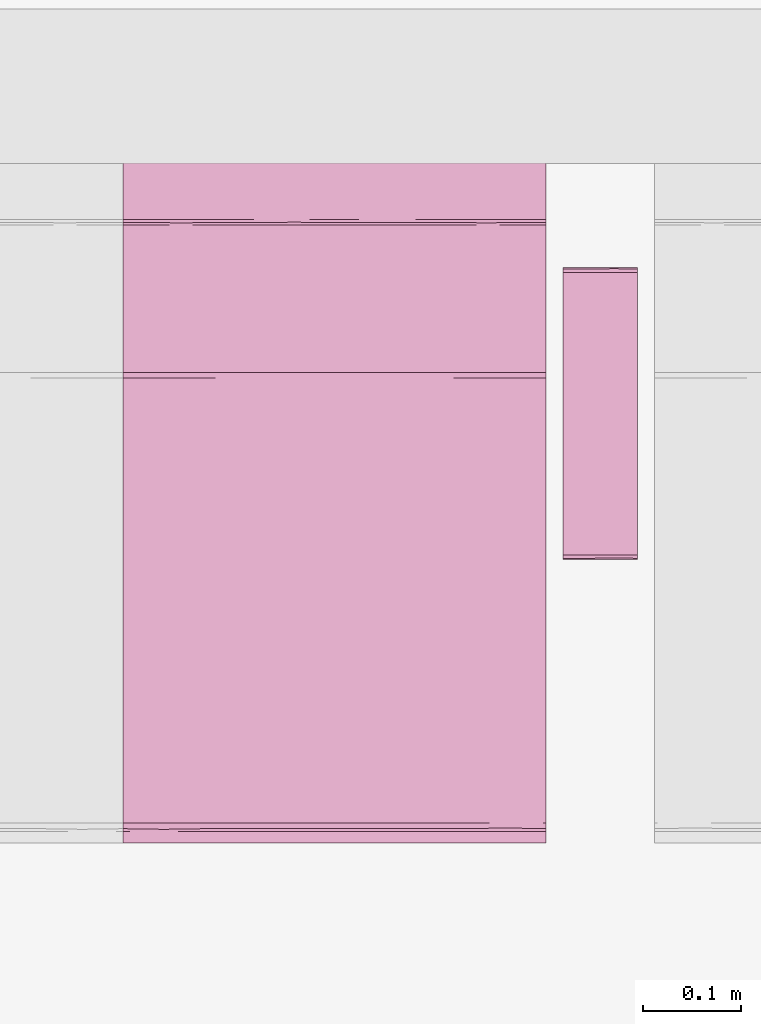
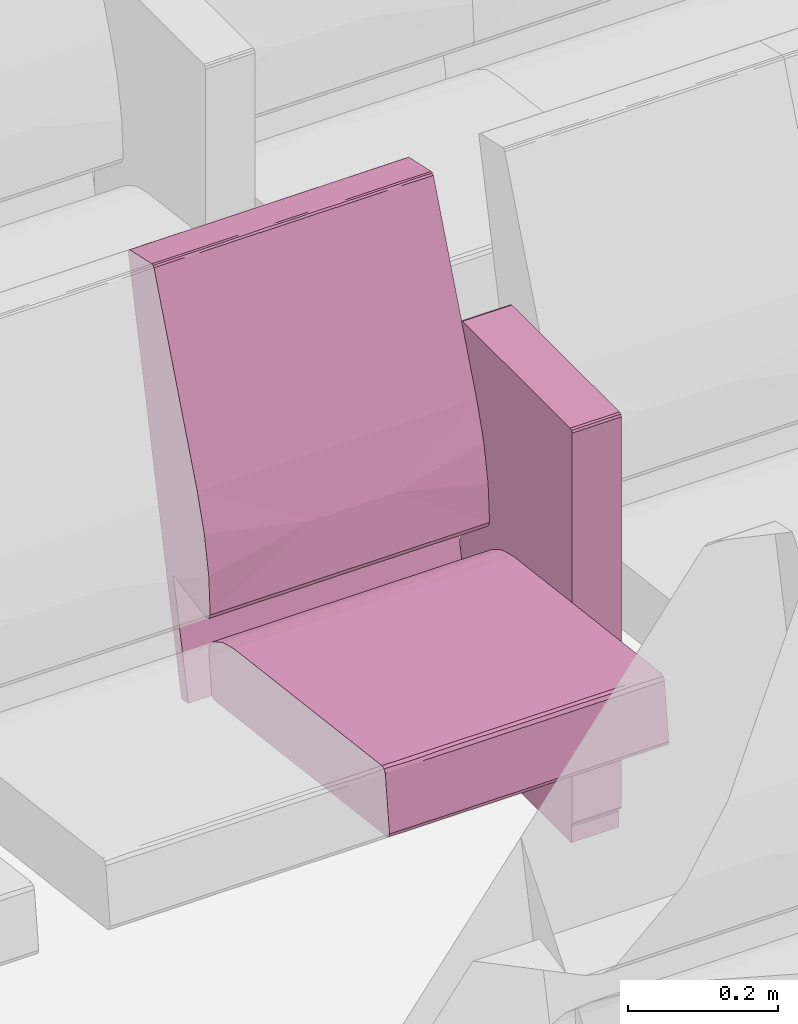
# One storey, part 108 of 155: 1 furnishing.
"""IFC2X3 building model written with IfcOpenShell, lengths in metres."""

from ifc_helpers import new_model, entity, si_unit, converted_unit, derived_unit, direction, frame, origin, place, context, subcontext, project, spatial, faceted_brep, source, transform, mapped, material, material_list, type_object, type_shapes, element, save


model = new_model("IFC2X3")

# Units and contexts
model_context = context("Model", 3, precision=1e-05, world=origin(), true_north=direction((6.12303176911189e-17, 1.0)))
body_context = subcontext(model_context, "Body", "Model", "MODEL_VIEW")
ifc_project = project(units=[si_unit("LENGTHUNIT", "METRE"), si_unit("AREAUNIT", "SQUARE_METRE"), si_unit("VOLUMEUNIT", "CUBIC_METRE"), converted_unit("PLANEANGLEUNIT", "DEGREE", entity("IfcRatioMeasure", 0.0174532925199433), si_unit("PLANEANGLEUNIT", "RADIAN"), dimensions=[0, 0, 0, 0, 0, 0, 0]), si_unit("MASSUNIT", "GRAM", prefix="KILO"), derived_unit("MASSDENSITYUNIT", [(si_unit("MASSUNIT", "GRAM", prefix="KILO"), 1), (si_unit("LENGTHUNIT", "METRE"), -3)]), si_unit("TIMEUNIT", "SECOND"), si_unit("FREQUENCYUNIT", "HERTZ"), si_unit("THERMODYNAMICTEMPERATUREUNIT", "DEGREE_CELSIUS"), derived_unit("THERMALTRANSMITTANCEUNIT", [(si_unit("MASSUNIT", "GRAM", prefix="KILO"), 1), (si_unit("THERMODYNAMICTEMPERATUREUNIT", "KELVIN"), -1), (si_unit("TIMEUNIT", "SECOND"), -3)]), derived_unit("VOLUMETRICFLOWRATEUNIT", [(si_unit("LENGTHUNIT", "METRE"), 3), (si_unit("TIMEUNIT", "SECOND"), -1)]), si_unit("ELECTRICCURRENTUNIT", "AMPERE"), si_unit("ELECTRICVOLTAGEUNIT", "VOLT"), si_unit("POWERUNIT", "WATT"), si_unit("FORCEUNIT", "NEWTON", prefix="KILO"), si_unit("ILLUMINANCEUNIT", "LUX"), si_unit("LUMINOUSFLUXUNIT", "LUMEN"), si_unit("LUMINOUSINTENSITYUNIT", "CANDELA"), derived_unit("USERDEFINED", [(si_unit("MASSUNIT", "GRAM", prefix="KILO"), -1), (si_unit("LENGTHUNIT", "METRE"), -2), (si_unit("TIMEUNIT", "SECOND"), 3), (si_unit("LUMINOUSFLUXUNIT", "LUMEN"), 1)]), derived_unit("LINEARVELOCITYUNIT", [(si_unit("LENGTHUNIT", "METRE"), 1), (si_unit("TIMEUNIT", "SECOND"), -1)]), si_unit("PRESSUREUNIT", "PASCAL"), derived_unit("USERDEFINED", [(si_unit("LENGTHUNIT", "METRE"), -2), (si_unit("MASSUNIT", "GRAM", prefix="KILO"), 1), (si_unit("TIMEUNIT", "SECOND"), -2)])], contexts=[model_context])

# Site, building, storey, space
site_placement = place(None, frame((26.9889013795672, -17.5624287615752, 0.0)))
site = spatial("IfcSite", under=ifc_project, at=site_placement, Name="Default", CompositionType="ELEMENT")
building_placement = place(site_placement, origin())
building = spatial("IfcBuilding", under=site, at=building_placement, Name="C. C. L. Monsenhor Antônio Sampaio", CompositionType="ELEMENT")
storey_placement = place(building_placement, frame((0.0, 0.0, 1.19999999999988)))
storey = spatial("IfcBuildingStorey", under=building, at=storey_placement, Name="Nível 1.2", CompositionType="ELEMENT", Elevation=1.19999999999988)
space_placement = place(storey_placement, origin())
space = spatial("IfcSpace", under=storey, at=space_placement, Name="94", CompositionType="ELEMENT", InteriorOrExteriorSpace="INTERNAL")

# Furnishing
ifc_material_1 = material(Name="V9 - V9 - Ecopelle_672_658")
ifc_material_2 = material(Name="V9 - V9 - RAL_9006_Grigio")
ifc_material_list_1 = material_list([ifc_material_1, ifc_material_2])
ifc_material_list_2 = material_list([ifc_material_1, ifc_material_2])
furniture_type = type_object("IfcFurnitureType", Name="Cadeira auditório", material=ifc_material_list_2)
shared_shape = source(origin(), body_context, "Body", "Brep", [
    faceted_brep([(0.405536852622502, -0.1075, 0.339809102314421), (0.410560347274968, -0.131924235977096, 0.34246450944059), (0.405536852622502, -0.156348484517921, 0.339809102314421), (0.41079981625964, -0.0179166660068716, 0.342749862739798), (0.410597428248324, -0.084060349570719, 0.342506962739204), (0.405536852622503, -0.0537499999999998, 0.339809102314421), (0.410248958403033, -0.173608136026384, 0.342130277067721), (0.405536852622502, -0.215, 0.339809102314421), (0.412515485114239, -0.143333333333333, 0.348529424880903), (0.412515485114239, -0.185674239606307, 0.348529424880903), (0.405536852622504, 0.1075, 0.33980910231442), (0.405536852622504, 0.156348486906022, 0.33980910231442), (0.410560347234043, 0.131924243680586, 0.342464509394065), (0.405536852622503, 0.0, 0.33980910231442), (0.411170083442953, 0.0341365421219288, 0.343251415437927), (0.41251548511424, 0.0, 0.348529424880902), (0.412515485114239, -0.0358333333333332, 0.348529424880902), (0.412515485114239, -0.0716666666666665, 0.348529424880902), (0.41251548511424, 0.143333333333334, 0.348529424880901), (0.41059742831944, 0.0840603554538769, 0.342506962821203), (0.405536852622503, 0.0537500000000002, 0.33980910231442), (0.410248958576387, 0.173608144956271, 0.342130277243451), (0.410799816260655, 0.215, 0.342749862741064), (0.412515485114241, 0.185674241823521, 0.348529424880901), (0.412515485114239, -0.215, 0.348529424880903), (0.410799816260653, -0.215, 0.342749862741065), (0.412515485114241, 0.215, 0.348529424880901), (0.41251548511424, 0.0716666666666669, 0.348529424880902), (0.405536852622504, 0.215, 0.33980910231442), (-0.0557900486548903, -0.215, 0.28268145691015), (-0.0557900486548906, -0.1881249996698, 0.282681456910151), (-0.0557900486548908, -0.161250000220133, 0.282681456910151), (-0.055790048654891, -0.134374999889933, 0.282681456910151), (-0.0557900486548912, -0.107499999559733, 0.282681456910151), (-0.0557900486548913, -0.0806250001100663, 0.282681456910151), (-0.0557900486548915, -0.0537499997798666, 0.282681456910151), (-0.0557900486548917, -0.0268749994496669, 0.282681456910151), (-0.0557900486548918, 0.0, 0.28268145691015), (-0.0557900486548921, 0.0268750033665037, 0.282681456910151), (-0.0557900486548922, 0.0537499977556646, 0.282681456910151), (-0.0557900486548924, 0.0806249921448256, 0.282681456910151), (-0.0557900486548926, 0.107499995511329, 0.282681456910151), (-0.0557900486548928, 0.138065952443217, 0.282681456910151), (-0.055790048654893, 0.168631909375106, 0.282681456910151), (-0.0557900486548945, 0.215, 0.28268145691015), (-0.0594787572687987, -0.0179017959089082, 0.283700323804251), (-0.0613666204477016, 0.0, 0.287029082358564), (-0.0594787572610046, 0.0152829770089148, 0.283700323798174), (-0.0594787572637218, -0.215, 0.283700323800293), (-0.0613666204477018, -0.215, 0.287029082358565), (-0.0613666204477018, -0.191815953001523, 0.287029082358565), (-0.0613666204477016, -0.030565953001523, 0.287029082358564), (-0.0593340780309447, -0.0671874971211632, 0.283591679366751), (-0.0593337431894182, 0.184174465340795, 0.283591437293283), (-0.0594787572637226, 0.215, 0.283700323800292), (-0.0593023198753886, 0.0940625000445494, 0.283568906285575), (-0.0613666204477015, 0.0611319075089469, 0.287029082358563), (-0.0613666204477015, 0.0916978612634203, 0.287029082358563), (-0.0613666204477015, 0.122263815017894, 0.287029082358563), (-0.0597338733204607, -0.147039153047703, 0.283913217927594), (-0.0613666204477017, -0.122263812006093, 0.287029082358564), (-0.059382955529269, -0.118123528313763, 0.28362747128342), (-0.0592501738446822, -0.180223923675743, 0.283532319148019), (-0.0613666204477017, -0.168631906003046, 0.287029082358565), (-0.0588783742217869, -0.0926899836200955, 0.283298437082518), (-0.0613666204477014, 0.168631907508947, 0.287029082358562), (-0.0613666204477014, 0.215, 0.287029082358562), (-0.0592576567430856, 0.123736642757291, 0.283537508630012), (-0.0594787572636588, 0.153348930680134, 0.283700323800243), (-0.0613666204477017, -0.0916978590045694, 0.287029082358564), (-0.0613666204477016, 0.0305659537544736, 0.287029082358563), (-0.059645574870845, 0.045848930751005, 0.283836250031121), (-0.0613666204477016, -0.0611319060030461, 0.287029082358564), (-0.0693403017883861, 0.143333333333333, 0.351419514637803), (-0.069340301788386, 0.215, 0.351419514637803), (-0.0693403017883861, -0.215, 0.351419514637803), (-0.0693403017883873, -0.143333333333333, 0.351419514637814), (-0.069340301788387, -0.0716666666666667, 0.351419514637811), (-0.0693403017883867, 0.0, 0.351419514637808), (-0.0693403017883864, 0.0716666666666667, 0.351419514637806), (-0.0653387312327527, -0.0126787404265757, 0.368680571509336), (-0.0645543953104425, -0.112272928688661, 0.369803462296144), (-0.0597085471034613, 0.0, 0.37476954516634), (-0.0655136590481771, 0.104400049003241, 0.368411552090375), (-0.0681665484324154, 0.0888707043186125, 0.36292533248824), (-0.0694879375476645, -0.0590582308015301, 0.356377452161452), (-0.0695056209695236, 0.125492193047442, 0.356093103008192), (-0.0597085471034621, 0.110316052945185, 0.374769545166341), (-0.0676206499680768, -0.215, 0.364371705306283), (-0.0672851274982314, -0.108066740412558, 0.365148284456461), (-0.0690003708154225, -0.132942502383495, 0.359900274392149), (-0.068624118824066, -0.215, 0.356813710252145), (-0.0686241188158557, 0.214999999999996, 0.356813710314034), (-0.0694502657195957, 0.0358333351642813, 0.356863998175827), (-0.0686999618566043, -0.035833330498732, 0.36116674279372), (-0.067620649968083, 0.214999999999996, 0.364371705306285), (-0.063664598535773, 0.214999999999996, 0.369570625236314), (-0.0597085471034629, 0.214999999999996, 0.374769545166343), (-0.0597085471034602, -0.110316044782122, 0.374769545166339), (-0.0636645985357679, -0.215, 0.36957062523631), (-0.0597085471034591, -0.215, 0.374769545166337), (-0.0018793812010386, -0.215, 0.398686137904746), (-0.0324117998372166, -0.0436847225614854, 0.39063968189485), (-0.0324117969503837, -0.215, 0.390639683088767), (-0.041847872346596, 0.0856576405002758, 0.386239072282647), (-0.00187938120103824, 0.102488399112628, 0.398686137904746), (-0.00187938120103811, 0.215, 0.398686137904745), (-0.0324117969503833, 0.215, 0.390639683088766), (-0.0219042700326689, 0.0570631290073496, 0.394412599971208), (-0.00187938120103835, 0.0, 0.398686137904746), (0.392202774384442, -0.215, 0.447486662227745), (0.392202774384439, -0.156349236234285, 0.447486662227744), (0.392202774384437, -0.107499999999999, 0.447486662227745), (0.392202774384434, -0.0537499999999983, 0.447486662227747), (0.392202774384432, 0.0, 0.447486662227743), (0.392202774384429, 0.0537500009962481, 0.44748666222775), (0.392202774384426, 0.107500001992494, 0.447486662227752), (0.392202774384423, 0.156349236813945, 0.447486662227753), (0.392202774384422, 0.215, 0.447486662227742), (0.397860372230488, 0.0827732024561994, 0.446039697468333), (0.401125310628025, 0.0976984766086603, 0.440530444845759), (0.398104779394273, 0.131924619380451, 0.445856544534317), (0.397373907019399, 0.173462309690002, 0.446363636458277), (0.401125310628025, 0.156349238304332, 0.440530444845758), (0.401125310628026, 0.215000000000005, 0.440530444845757), (0.398104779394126, 0.215000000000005, 0.445856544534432), (0.397860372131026, -0.0827731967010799, 0.446039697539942), (0.398104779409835, -0.131924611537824, 0.445856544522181), (0.398104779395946, -0.0268749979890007, 0.445856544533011), (0.398104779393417, 0.0237489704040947, 0.445856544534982), (0.401125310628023, -0.0488492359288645, 0.440530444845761), (0.401125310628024, 0.0488492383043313, 0.44053044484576), (0.398774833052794, -0.173462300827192, 0.445271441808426), (0.401125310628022, -0.0976984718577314, 0.440530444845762), (0.39810477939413, -0.215, 0.445856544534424), (0.401125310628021, -0.215, 0.440530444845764), (0.401125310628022, -0.156349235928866, 0.440530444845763), (0.401125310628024, 0.0, 0.44053044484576)], [[[0, 1, 2]], [[3, 4, 5]], [[2, 6, 7]], [[8, 9, 6]], [[10, 11, 12]], [[13, 3, 5]], [[3, 14, 15]], [[1, 4, 8]], [[6, 1, 8]], [[4, 3, 16]], [[16, 17, 8, 4]], [[12, 18, 19]], [[4, 1, 0]], [[20, 14, 13]], [[21, 22, 23]], [[15, 16, 3]], [[9, 24, 25]], [[26, 23, 22]], [[7, 6, 25]], [[12, 11, 21]], [[19, 14, 20]], [[4, 0, 5]], [[14, 27, 15]], [[13, 14, 3]], [[19, 18, 27]], [[19, 10, 12]], [[18, 21, 23]], [[10, 19, 20]], [[19, 27, 14]], [[2, 1, 6]], [[21, 11, 28]], [[25, 6, 9]], [[18, 12, 21]], [[22, 21, 28]], [[28, 11, 10, 20, 13, 5, 0, 2, 7, 29, 30, 31, 32, 33, 34, 35, 36, 37, 38, 39, 40, 41, 42, 43, 44]], [[45, 46, 47]], [[48, 49, 50]], [[51, 45, 52]], [[53, 54, 44]], [[55, 56, 57, 58]], [[59, 60, 61]], [[62, 63, 59]], [[34, 64, 52]], [[53, 65, 66]], [[41, 67, 42]], [[37, 36, 35, 45, 47, 38]], [[43, 42, 68]], [[29, 48, 30]], [[59, 31, 62]], [[62, 48, 50]], [[61, 69, 64]], [[65, 53, 68]], [[50, 63, 62]], [[62, 30, 48]], [[55, 58, 67]], [[32, 31, 59]], [[46, 70, 47]], [[65, 68, 58]], [[55, 40, 71]], [[70, 56, 71]], [[61, 33, 32]], [[59, 63, 60]], [[39, 38, 71, 40]], [[47, 71, 38]], [[51, 46, 45]], [[70, 71, 47]], [[71, 56, 55]], [[40, 55, 41]], [[67, 68, 42]], [[43, 68, 53]], [[43, 53, 44]], [[66, 54, 53]], [[68, 67, 58]], [[55, 67, 41]], [[72, 51, 52, 69]], [[62, 31, 30]], [[59, 61, 32]], [[35, 52, 45]], [[64, 34, 33]], [[34, 52, 35]], [[61, 60, 69]], [[52, 64, 69]], [[61, 64, 33]], [[73, 74, 66, 65, 58, 57, 56, 70, 46, 51, 72, 69, 60, 63, 50, 49, 75, 76, 77, 78, 79]], [[80, 81, 82]], [[83, 84, 80]], [[85, 78, 77, 76]], [[73, 79, 86]], [[80, 82, 83]], [[87, 83, 82]], [[88, 89, 90]], [[76, 75, 91]], [[92, 74, 73]], [[91, 90, 85]], [[80, 89, 81]], [[84, 93, 94]], [[84, 86, 93]], [[93, 78, 85]], [[73, 86, 92]], [[94, 93, 85]], [[95, 92, 84]], [[78, 93, 79]], [[80, 84, 94]], [[83, 96, 95]], [[94, 85, 90]], [[87, 97, 96]], [[98, 99, 100]], [[91, 85, 76]], [[94, 90, 89]], [[90, 91, 88]], [[89, 80, 94]], [[89, 99, 81]], [[89, 88, 99]], [[82, 81, 98]], [[81, 99, 98]], [[92, 86, 84]], [[93, 86, 79]], [[84, 83, 95]], [[96, 83, 87]], [[101, 102, 103]], [[104, 97, 87, 82]], [[105, 106, 107]], [[107, 108, 105]], [[109, 102, 101]], [[82, 102, 104]], [[102, 108, 104]], [[103, 102, 100]], [[97, 104, 107]], [[104, 108, 107]], [[102, 82, 98, 100]], [[105, 108, 109]], [[108, 102, 109]], [[109, 101, 110, 111, 112, 113, 114, 115, 116, 117, 118, 106, 105]], [[119, 120, 121]], [[122, 123, 124]], [[122, 125, 118]], [[126, 113, 112]], [[117, 121, 122]], [[121, 117, 116]], [[112, 111, 127]], [[113, 128, 129, 115, 114]], [[126, 130, 128]], [[129, 131, 119]], [[111, 132, 127]], [[132, 111, 110]], [[133, 126, 127]], [[123, 122, 121]], [[132, 134, 135]], [[127, 132, 136]], [[123, 121, 120]], [[127, 136, 133]], [[129, 128, 130, 137, 131]], [[112, 127, 126]], [[126, 133, 130]], [[119, 121, 116]], [[113, 126, 128]], [[119, 115, 129]], [[119, 116, 115]], [[120, 119, 131]], [[117, 122, 118]], [[124, 125, 122]], [[136, 132, 135]], [[110, 134, 132]], [[137, 130, 133, 136, 135, 24, 9, 8, 17, 16, 15, 27, 18, 23, 26, 124, 123, 120, 131]], [[44, 54, 66, 74, 92, 95, 96, 97, 107, 106, 118, 125, 124, 26, 22, 28]], [[75, 49, 48, 29, 7, 25, 24, 135, 134, 110, 101, 103, 100, 99, 88, 91]]]),
    faceted_brep([(0.119812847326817, 0.27, 0.674900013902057), (0.12334838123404, 0.259944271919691, 0.6734355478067), (0.123144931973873, 0.283972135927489, 0.673627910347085), (0.124812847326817, 0.27, 0.669900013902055), (0.119812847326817, 0.232, 0.674900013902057), (0.12334838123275, 0.232, 0.673435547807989), (0.124812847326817, 0.308, 0.669900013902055), (0.119812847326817, 0.308, 0.674900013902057), (0.124812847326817, 0.249888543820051, 0.669900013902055), (0.124812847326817, 0.232, 0.669900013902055), (0.12334838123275, 0.308, 0.673435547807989), (0.124812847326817, 0.232, 0.0349999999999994), (0.124812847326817, 0.27, 0.035), (0.124812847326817, 0.308, 0.035), (0.12334838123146, 0.25994427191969, 0.0314644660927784), (0.123540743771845, 0.283972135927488, 0.0316679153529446), (0.119812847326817, 0.27, 0.0300000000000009), (0.12334838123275, 0.232, 0.0314644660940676), (0.119812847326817, 0.308, 0.0300000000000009), (0.119812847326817, 0.249888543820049, 0.030000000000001), (0.119812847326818, 0.232, 0.030000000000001), (0.123348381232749, 0.308, 0.0314644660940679), (-0.167179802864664, 0.27, 0.0300000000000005), (-0.167179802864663, 0.308, 0.0300000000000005), (-0.167179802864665, 0.232, 0.0300000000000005), (-0.170715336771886, 0.25994427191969, 0.0314644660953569), (-0.17051188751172, 0.283972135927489, 0.0312721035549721), (-0.172179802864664, 0.27, 0.0350000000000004), (-0.170715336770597, 0.232, 0.0314644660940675), (-0.172179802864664, 0.308, 0.0350000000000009), (-0.172179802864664, 0.24988854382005, 0.0350000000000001), (-0.172179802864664, 0.232, 0.0349999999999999), (-0.170715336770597, 0.308, 0.0314644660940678), (-0.172179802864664, 0.308, 0.669900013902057), (-0.172179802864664, 0.232, 0.669900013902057), (-0.172179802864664, 0.27, 0.669900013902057), (-0.170715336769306, 0.259944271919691, 0.673435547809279), (-0.170907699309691, 0.283972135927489, 0.673232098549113), (-0.167179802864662, 0.27, 0.674900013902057), (-0.170715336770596, 0.232, 0.67343554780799), (-0.167179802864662, 0.308, 0.674900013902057), (-0.167179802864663, 0.249888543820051, 0.674900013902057), (-0.167179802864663, 0.232, 0.674900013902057), (-0.170715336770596, 0.308, 0.67343554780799)], [[[0, 1, 2]], [[3, 2, 1]], [[0, 4, 5, 1]], [[2, 3, 6]], [[0, 2, 7]], [[8, 3, 1, 5, 9]], [[7, 2, 10]], [[6, 10, 2]], [[9, 11, 12, 13, 6, 3, 8]], [[12, 14, 15]], [[16, 15, 14]], [[12, 11, 17, 14]], [[15, 16, 18]], [[12, 15, 13]], [[19, 16, 14, 17, 20]], [[13, 15, 21]], [[18, 21, 15]], [[22, 23, 18, 16, 19, 20, 24]], [[22, 25, 26]], [[27, 26, 25]], [[22, 24, 28, 25]], [[26, 27, 29]], [[22, 26, 23]], [[30, 27, 25, 28, 31]], [[23, 26, 32]], [[29, 32, 26]], [[33, 29, 27, 30, 31, 34, 35]], [[35, 36, 37]], [[38, 37, 36]], [[35, 34, 39, 36]], [[37, 38, 40]], [[35, 37, 33]], [[41, 38, 36, 39, 42]], [[33, 37, 43]], [[40, 43, 37]], [[0, 7, 40, 38, 41, 42, 4]], [[42, 39, 34, 31, 28, 24, 20, 17, 11, 9, 5, 4]], [[23, 32, 29, 33, 43, 40, 7, 10, 6, 13, 21, 18]]]),
    faceted_brep([(-0.0655618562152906, -0.215, 0.415143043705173), (-0.0744051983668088, -0.0524423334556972, 0.506888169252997), (-0.0695672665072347, -0.215, 0.476508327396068), (-0.0655618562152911, 0.0, 0.415143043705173), (-0.0744051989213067, 0.0780075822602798, 0.506888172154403), (-0.0655618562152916, 0.1075, 0.415143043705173), (-0.0655618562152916, 0.215, 0.415143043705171), (-0.0655618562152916, -0.1075, 0.415143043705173), (-0.0695672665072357, 0.215, 0.476508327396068), (-0.0811110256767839, 0.215, 0.536911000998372), (-0.0811110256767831, -0.215, 0.536911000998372), (-0.100016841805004, 0.0, 0.595428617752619), (-0.100016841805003, -0.215, 0.595428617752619), (-0.100016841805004, 0.215, 0.595428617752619), (-0.0792851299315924, -0.0716666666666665, 0.404772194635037), (-0.0792851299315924, 0.0, 0.404772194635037), (-0.0698317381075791, -0.0358333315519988, 0.406528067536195), (-0.0698317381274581, 0.215, 0.406528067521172), (-0.0792851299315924, 0.143333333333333, 0.404772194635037), (-0.0792851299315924, 0.215, 0.404772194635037), (-0.0698317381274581, -0.215, 0.406528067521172), (-0.0792851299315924, -0.215, 0.404772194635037), (-0.0792851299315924, -0.143333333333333, 0.404772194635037), (-0.0694171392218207, -0.140338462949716, 0.406857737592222), (-0.0708115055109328, 0.0356393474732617, 0.405868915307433), (-0.0703502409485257, 0.107500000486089, 0.406159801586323), (-0.0792851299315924, 0.0716666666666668, 0.404772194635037), (-0.163837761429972, 0.215, 0.420611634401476), (-0.163837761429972, -0.215, 0.420611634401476), (-0.123612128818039, -0.215, 0.235917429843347), (-0.123612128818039, 0.215, 0.235917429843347), (-0.142059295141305, -0.215, 0.231899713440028), (-0.142059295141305, 0.215, 0.231899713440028), (-0.235388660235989, -0.215, 0.652619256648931), (-0.235388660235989, 0.215, 0.652619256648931), (-0.28428001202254, 0.0, 0.873004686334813), (-0.284280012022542, 0.0268749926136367, 0.873004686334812), (-0.284280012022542, 0.0537499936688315, 0.873004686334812), (-0.284280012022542, 0.0806249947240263, 0.873004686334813), (-0.284280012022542, 0.107499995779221, 0.873004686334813), (-0.284280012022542, 0.134374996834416, 0.873004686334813), (-0.284280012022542, 0.161249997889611, 0.873004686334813), (-0.284280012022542, 0.191295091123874, 0.873004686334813), (-0.28428001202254, 0.215, 0.873004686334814), (-0.284280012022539, -0.215, 0.873004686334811), (-0.28428001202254, -0.191295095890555, 0.873004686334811), (-0.284280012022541, -0.161249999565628, 0.873004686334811), (-0.284280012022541, -0.134374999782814, 0.873004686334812), (-0.284280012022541, -0.1075, 0.873004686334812), (-0.284280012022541, -0.0806250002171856, 0.873004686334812), (-0.284280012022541, -0.0537500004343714, 0.873004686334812), (-0.284280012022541, -0.0268749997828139, 0.873004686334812), (-0.283504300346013, -0.0569644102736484, 0.877068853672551), (-0.283746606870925, -0.0872244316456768, 0.876674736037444), (-0.283641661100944, 0.12093750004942, 0.876855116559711), (-0.283567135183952, 0.15546176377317, 0.876973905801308), (-0.28330409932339, -0.185293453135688, 0.877344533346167), (-0.283567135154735, -0.155461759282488, 0.876973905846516), (-0.280514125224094, 0.0, 0.879190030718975), (-0.280514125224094, 0.0358333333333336, 0.879190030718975), (-0.283641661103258, 0.0136463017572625, 0.876855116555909), (-0.283641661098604, -0.0179166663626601, 0.876855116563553), (-0.280514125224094, -0.0358333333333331, 0.879190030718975), (-0.280514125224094, 0.1075, 0.879190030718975), (-0.280514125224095, 0.143333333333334, 0.879190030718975), (-0.283746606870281, 0.0872244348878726, 0.876674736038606), (-0.280514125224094, 0.071666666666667, 0.879190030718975), (-0.280514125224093, -0.1075, 0.879190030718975), (-0.280514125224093, -0.0716666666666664, 0.879190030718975), (-0.280514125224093, -0.143333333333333, 0.879190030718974), (-0.283641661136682, -0.120937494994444, 0.876855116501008), (-0.283641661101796, -0.215, 0.876855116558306), (-0.283641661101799, 0.215, 0.876855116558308), (-0.280514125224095, 0.167590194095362, 0.879190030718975), (-0.283304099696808, 0.18529345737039, 0.877344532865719), (-0.280514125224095, 0.215, 0.879190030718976), (-0.280514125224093, -0.167590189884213, 0.879190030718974), (-0.280514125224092, -0.215, 0.879190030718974), (-0.283504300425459, 0.0569644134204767, 0.8770688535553), (-0.221112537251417, -0.215, 0.892176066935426), (-0.221112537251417, -0.19181594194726, 0.892176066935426), (-0.221112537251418, -0.16124999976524, 0.892176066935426), (-0.221112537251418, -0.13437499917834, 0.892176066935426), (-0.221112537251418, -0.10749999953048, 0.892176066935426), (-0.221112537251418, -0.08062499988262, 0.892176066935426), (-0.221112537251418, -0.0537500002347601, 0.892176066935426), (-0.221112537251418, -0.0268750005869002, 0.892176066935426), (-0.221112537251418, 0.0, 0.892176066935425), (-0.221112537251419, 0.0268750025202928, 0.892176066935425), (-0.221112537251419, 0.053749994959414, 0.892176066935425), (-0.221112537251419, 0.0806249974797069, 0.892176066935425), (-0.221112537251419, 0.1075, 0.892176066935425), (-0.221112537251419, 0.134375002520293, 0.892176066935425), (-0.221112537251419, 0.161250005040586, 0.892176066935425), (-0.221112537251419, 0.191815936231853, 0.892176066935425), (-0.221112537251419, 0.215, 0.892176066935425), (-0.217722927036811, -0.0162353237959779, 0.891719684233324), (-0.215419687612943, -0.0358333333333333, 0.889191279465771), (-0.215419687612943, 0.0, 0.889191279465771), (-0.217722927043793, 0.0134375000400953, 0.891719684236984), (-0.217722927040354, 0.120937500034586, 0.89171968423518), (-0.217722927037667, 0.0912646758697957, 0.891719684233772), (-0.215419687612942, 0.0716666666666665, 0.88919127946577), (-0.215419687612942, 0.1075, 0.88919127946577), (-0.215419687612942, 0.143333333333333, 0.88919127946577), (-0.217722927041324, 0.215, 0.891719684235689), (-0.217722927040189, 0.182482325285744, 0.891719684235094), (-0.215419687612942, 0.168631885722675, 0.889191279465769), (-0.215419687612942, 0.191815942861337, 0.889191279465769), (-0.215419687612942, 0.215, 0.889191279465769), (-0.217722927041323, -0.215, 0.89171968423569), (-0.215419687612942, -0.215, 0.889191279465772), (-0.215419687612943, -0.191815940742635, 0.889191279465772), (-0.217722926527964, -0.190103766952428, 0.891719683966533), (-0.2179983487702, 0.039082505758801, 0.891853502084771), (-0.217816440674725, 0.0647800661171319, 0.891767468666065), (-0.217558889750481, 0.155982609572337, 0.891629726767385), (-0.217722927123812, -0.120937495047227, 0.891719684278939), (-0.217558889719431, -0.15598260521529, 0.891629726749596), (-0.215419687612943, -0.143333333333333, 0.889191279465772), (-0.215419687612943, -0.16863188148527, 0.889191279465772), (-0.215419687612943, -0.0716666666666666, 0.889191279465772), (-0.217816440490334, -0.0647800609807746, 0.891767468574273), (-0.217722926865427, -0.0912646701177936, 0.891719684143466), (-0.215419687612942, 0.0358333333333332, 0.889191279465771), (-0.215419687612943, -0.1075, 0.889191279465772), (-0.218257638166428, -0.0404491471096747, 0.891961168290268)], [[[0, 1, 2]], [[3, 4, 1]], [[4, 3, 5, 6]], [[1, 0, 7, 3]], [[8, 4, 6]], [[9, 4, 8]], [[1, 10, 2]], [[1, 11, 12]], [[9, 13, 4]], [[13, 11, 4]], [[10, 1, 12]], [[11, 1, 4]], [[14, 15, 16]], [[17, 18, 19]], [[20, 21, 22]], [[20, 23, 0]], [[3, 7, 16]], [[15, 24, 16]], [[24, 25, 5]], [[22, 23, 20]], [[7, 23, 16]], [[6, 5, 17]], [[16, 24, 3]], [[16, 23, 14]], [[23, 22, 14]], [[18, 25, 26]], [[18, 17, 25]], [[26, 24, 15]], [[7, 0, 23]], [[5, 25, 17]], [[25, 24, 26]], [[3, 24, 5]], [[27, 19, 18, 26, 15, 14, 22, 21, 28]], [[27, 28, 29, 30]], [[31, 32, 30, 29]], [[33, 34, 32, 31]], [[35, 36, 37, 38, 39, 40, 41, 42, 43, 34, 33, 44, 45, 46, 47, 48, 49, 50, 51]], [[52, 49, 53]], [[54, 55, 40]], [[46, 56, 57]], [[58, 59, 60, 61, 62]], [[54, 63, 64]], [[65, 66, 63]], [[67, 68, 53]], [[57, 69, 70]], [[45, 56, 46]], [[39, 54, 40]], [[45, 44, 71]], [[72, 43, 42]], [[35, 51, 61, 60, 36]], [[55, 73, 74]], [[39, 65, 54]], [[74, 73, 75]], [[67, 53, 70]], [[74, 42, 41]], [[64, 73, 55]], [[56, 76, 57]], [[74, 72, 42]], [[76, 56, 77]], [[56, 71, 77]], [[57, 76, 69]], [[48, 70, 53]], [[70, 48, 47]], [[60, 78, 36]], [[63, 54, 65]], [[71, 56, 45]], [[41, 55, 74]], [[72, 74, 75]], [[57, 70, 47]], [[47, 46, 57]], [[69, 67, 70]], [[50, 49, 52, 51]], [[52, 62, 61]], [[61, 51, 52]], [[55, 41, 40]], [[55, 54, 64]], [[66, 65, 78]], [[65, 38, 78]], [[52, 53, 68]], [[37, 36, 78, 38]], [[78, 59, 66]], [[59, 78, 60]], [[49, 48, 53]], [[65, 39, 38]], [[52, 68, 62]], [[79, 80, 81, 82, 83, 84, 85, 86, 87, 88, 89, 90, 91, 92, 93, 94, 95, 75, 73, 64, 63, 66, 59, 58, 62, 68, 67, 69, 76, 77]], [[96, 97, 98, 99]], [[100, 101, 102, 103, 104]], [[105, 106, 107, 108, 109]], [[110, 111, 112]], [[80, 110, 113]], [[89, 114, 115]], [[92, 116, 93]], [[94, 93, 106, 105, 95]], [[80, 79, 110]], [[92, 91, 90, 101, 100]], [[99, 88, 87, 86, 96]], [[104, 107, 116]], [[117, 83, 82]], [[117, 118, 119]], [[112, 120, 113]], [[118, 120, 119]], [[118, 81, 113]], [[116, 107, 106]], [[101, 90, 115]], [[121, 122, 123]], [[104, 116, 100]], [[110, 112, 113]], [[114, 99, 124]], [[92, 100, 116]], [[117, 125, 123]], [[82, 81, 118]], [[118, 117, 82]], [[83, 117, 123]], [[125, 117, 119]], [[102, 101, 115]], [[84, 83, 123]], [[123, 125, 121]], [[85, 84, 122]], [[89, 115, 90]], [[96, 86, 126]], [[124, 102, 115]], [[88, 99, 114]], [[99, 98, 124]], [[122, 121, 97]], [[126, 122, 97]], [[88, 114, 89]], [[115, 114, 124]], [[123, 122, 84]], [[126, 85, 122]], [[85, 126, 86]], [[96, 126, 97]], [[116, 106, 93]], [[80, 113, 81]], [[118, 113, 120]], [[12, 11, 13, 109, 108, 107, 104, 103, 102, 124, 98, 97, 121, 125, 119, 120, 112, 111]], [[30, 32, 34, 43, 72, 75, 95, 105, 109, 13, 9, 8, 6, 17, 19, 27]], [[77, 71, 44, 33, 31, 29, 28, 21, 20, 0, 2, 10, 12, 111, 110, 79]]]),
    faceted_brep([(0.120312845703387, 0.2335, 0.0), (0.120312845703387, 0.3065, 0.0), (0.120312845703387, 0.3065, 0.0260000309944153), (0.120312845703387, 0.27, 0.0260000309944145), (0.120312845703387, 0.249500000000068, 0.0260000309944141), (0.120312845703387, 0.2335, 0.0260000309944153), (-0.167687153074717, 0.2335, 0.0), (-0.167687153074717, 0.3065, 0.0), (-0.167687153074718, 0.3065, 0.0260000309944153), (-0.167687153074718, 0.2335, 0.0260000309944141), (-0.167687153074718, 0.27, 0.0260000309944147), (-0.163702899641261, 0.233500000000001, 0.0300000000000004), (-0.166521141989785, 0.257382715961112, 0.0288228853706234), (-0.166521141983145, 0.233500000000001, 0.0288228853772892), (-0.166521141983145, 0.3065, 0.0288228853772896), (-0.16652114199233, 0.279986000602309, 0.0288228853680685), (-0.163702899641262, 0.3065, 0.0300000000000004), (-0.163702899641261, 0.27, 0.0300000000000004), (0.116297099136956, 0.2335, 0.0300000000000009), (0.116297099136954, 0.270000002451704, 0.0300000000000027), (0.116297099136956, 0.3065, 0.0300000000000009), (0.119033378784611, 0.283124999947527, 0.0289323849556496), (0.119135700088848, 0.259750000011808, 0.0288340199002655), (0.1191357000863, 0.2335, 0.0288340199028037), (0.119135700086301, 0.3065, 0.0288340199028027)], [[[0, 1, 2, 3, 4, 5]], [[6, 7, 1, 0]], [[8, 7, 6, 9, 10]], [[11, 12, 13]], [[14, 15, 16]], [[17, 16, 15, 12, 11]], [[13, 12, 10, 9]], [[8, 15, 14]], [[12, 15, 8, 10]], [[16, 17, 11, 18, 19, 20]], [[3, 2, 21]], [[22, 19, 18, 23]], [[22, 23, 5, 4, 3]], [[20, 21, 24]], [[22, 3, 21]], [[19, 21, 20]], [[2, 24, 21]], [[19, 22, 21]], [[20, 24, 2, 1, 7, 8, 14, 16]], [[18, 11, 13, 9, 6, 0, 5, 23]]]),
])
type_shapes(furniture_type, [shared_shape])
furnishing_placement = place(space_placement, frame((-12.0259492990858, -13.3554126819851, 0.0), z_axis=(0.0, 0.0, 1.0), x_axis=(0.0, -1.0, 0.0)))
element("IfcFurnishingElement", 1, at=furnishing_placement, inside=space, type_object=furniture_type, material=ifc_material_list_1, Name="cadeira auditório pcd:Cadeira auditório", ObjectType="Cadeira auditório", context=body_context, shape_type="MappedRepresentation", body=[
    mapped(shared_shape, transform((0.0, 0.0, 0.0), scale=1.0)),
])

save(model, "model.ifc")
